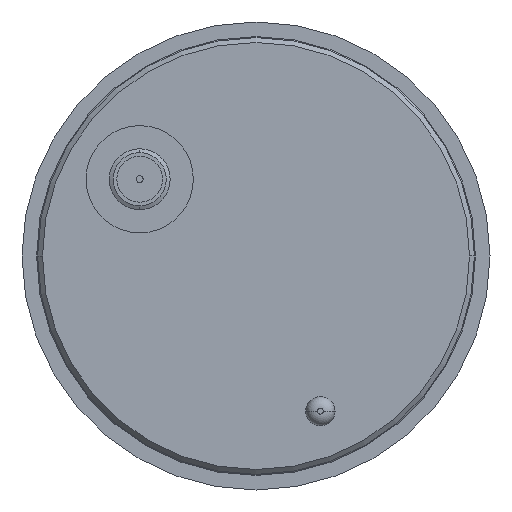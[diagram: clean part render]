
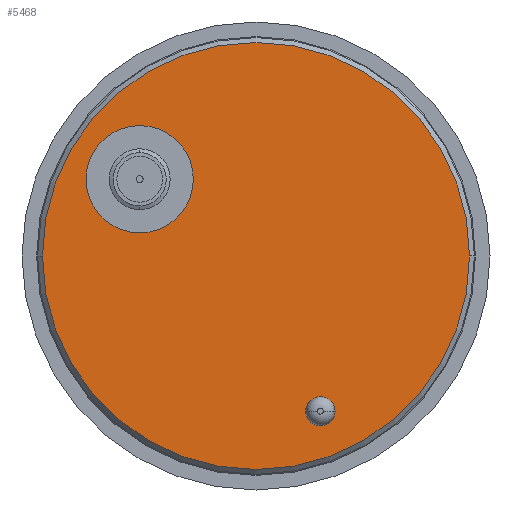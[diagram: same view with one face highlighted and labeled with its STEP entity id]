
A CAD part, front view. The second image highlights one B-rep face of the part: STEP entity #5468.
In plain terms, the highlighted planar face has unit normal (0, -1, 0).
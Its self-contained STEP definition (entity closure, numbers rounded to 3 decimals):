
#185 = CARTESIAN_POINT ( 'NONE',  ( 21.9, 0., 0. ) ) ;
#193 = CARTESIAN_POINT ( 'NONE',  ( -21.9, 0., 0. ) ) ;
#216 = CARTESIAN_POINT ( 'NONE',  ( -11.929, 0., 13.375 ) ) ;
#217 = CARTESIAN_POINT ( 'NONE',  ( -11.929, 0., 2.375 ) ) ;
#225 = CARTESIAN_POINT ( 'NONE',  ( 5.104, 0., -15.92 ) ) ;
#226 = CARTESIAN_POINT ( 'NONE',  ( 8.104, 0., -15.92 ) ) ;
#840 = CARTESIAN_POINT ( 'NONE',  ( 6.604, 0., -15.92 ) ) ;
#841 = DIRECTION ( 'NONE',  ( 0., 1., 0. ) ) ;
#842 = DIRECTION ( 'NONE',  ( -1., 0., 0. ) ) ;
#861 = CARTESIAN_POINT ( 'NONE',  ( -11.929, 0., 7.875 ) ) ;
#862 = DIRECTION ( 'NONE',  ( 0., 1., 0. ) ) ;
#863 = DIRECTION ( 'NONE',  ( 0., 0., 1. ) ) ;
#887 = CARTESIAN_POINT ( 'NONE',  ( 6.604, 0., -15.92 ) ) ;
#888 = DIRECTION ( 'NONE',  ( 0., 1., 0. ) ) ;
#889 = DIRECTION ( 'NONE',  ( -1., 0., 0. ) ) ;
#891 = CARTESIAN_POINT ( 'NONE',  ( 0., 0., 0. ) ) ;
#892 = DIRECTION ( 'NONE',  ( 0., 1., 0. ) ) ;
#893 = DIRECTION ( 'NONE',  ( -1., 0., 0. ) ) ;
#894 = CARTESIAN_POINT ( 'NONE',  ( -11.929, 0., 7.875 ) ) ;
#895 = DIRECTION ( 'NONE',  ( 0., 1., 0. ) ) ;
#896 = DIRECTION ( 'NONE',  ( 0., 0., 1. ) ) ;
#1790 = VERTEX_POINT ( 'NONE', #226 ) ;
#1791 = VERTEX_POINT ( 'NONE', #225 ) ;
#1796 = VERTEX_POINT ( 'NONE', #217 ) ;
#1797 = VERTEX_POINT ( 'NONE', #216 ) ;
#1819 = VERTEX_POINT ( 'NONE', #193 ) ;
#1827 = VERTEX_POINT ( 'NONE', #185 ) ;
#2030 = ORIENTED_EDGE ( 'NONE', *, *, #5005, .T. ) ;
#2031 = ORIENTED_EDGE ( 'NONE', *, *, #5262, .T. ) ;
#2033 = ORIENTED_EDGE ( 'NONE', *, *, #5355, .F. ) ;
#2043 = ORIENTED_EDGE ( 'NONE', *, *, #5263, .F. ) ;
#2044 = ORIENTED_EDGE ( 'NONE', *, *, #5253, .T. ) ;
#2045 = ORIENTED_EDGE ( 'NONE', *, *, #5264, .T. ) ;
#2116 = EDGE_LOOP ( 'NONE', ( #2044, #2045 ) ) ;
#2124 = EDGE_LOOP ( 'NONE', ( #2033, #2043 ) ) ;
#2125 = EDGE_LOOP ( 'NONE', ( #2030, #2031 ) ) ;
#2649 = DIRECTION ( 'NONE',  ( 0., 1., 0. ) ) ;
#2652 = FACE_BOUND ( 'NONE', #2125, .T. ) ;
#2653 = CARTESIAN_POINT ( 'NONE',  ( -5.237, 0., 0. ) ) ;
#2654 = FACE_OUTER_BOUND ( 'NONE', #2124, .T. ) ;
#2656 = FACE_BOUND ( 'NONE', #2116, .T. ) ;
#2657 = PLANE ( 'NONE',  #3982 ) ;
#2658 = DIRECTION ( 'NONE',  ( -1., 0., 0. ) ) ;
#3982 = AXIS2_PLACEMENT_3D ( 'NONE', #2653, #2649, #2658 ) ;
#4234 = AXIS2_PLACEMENT_3D ( 'NONE', #6626, #6627, #6628 ) ;
#4239 = CIRCLE ( 'NONE', #4234, 21.9 ) ;
#4289 = AXIS2_PLACEMENT_3D ( 'NONE', #840, #841, #842 ) ;
#4299 = CIRCLE ( 'NONE', #4289, 1.5 ) ;
#4449 = AXIS2_PLACEMENT_3D ( 'NONE', #894, #895, #896 ) ;
#4451 = AXIS2_PLACEMENT_3D ( 'NONE', #891, #892, #893 ) ;
#4453 = AXIS2_PLACEMENT_3D ( 'NONE', #887, #888, #889 ) ;
#4454 = CIRCLE ( 'NONE', #4451, 21.9 ) ;
#4456 = CIRCLE ( 'NONE', #4453, 1.5 ) ;
#4457 = CIRCLE ( 'NONE', #4449, 5.5 ) ;
#4472 = AXIS2_PLACEMENT_3D ( 'NONE', #861, #862, #863 ) ;
#4474 = CIRCLE ( 'NONE', #4472, 5.5 ) ;
#5005 = EDGE_CURVE ( 'NONE', #1791, #1790, #4299, .T. ) ;
#5253 = EDGE_CURVE ( 'NONE', #1796, #1797, #4474, .T. ) ;
#5262 = EDGE_CURVE ( 'NONE', #1790, #1791, #4456, .T. ) ;
#5263 = EDGE_CURVE ( 'NONE', #1827, #1819, #4454, .T. ) ;
#5264 = EDGE_CURVE ( 'NONE', #1797, #1796, #4457, .T. ) ;
#5355 = EDGE_CURVE ( 'NONE', #1819, #1827, #4239, .T. ) ;
#5468 = ADVANCED_FACE ( 'NONE', ( #2652, #2654, #2656 ), #2657, .F. ) ;
#6626 = CARTESIAN_POINT ( 'NONE',  ( 0., 0., 0. ) ) ;
#6627 = DIRECTION ( 'NONE',  ( 0., 1., 0. ) ) ;
#6628 = DIRECTION ( 'NONE',  ( -1., 0., 0. ) ) ;
